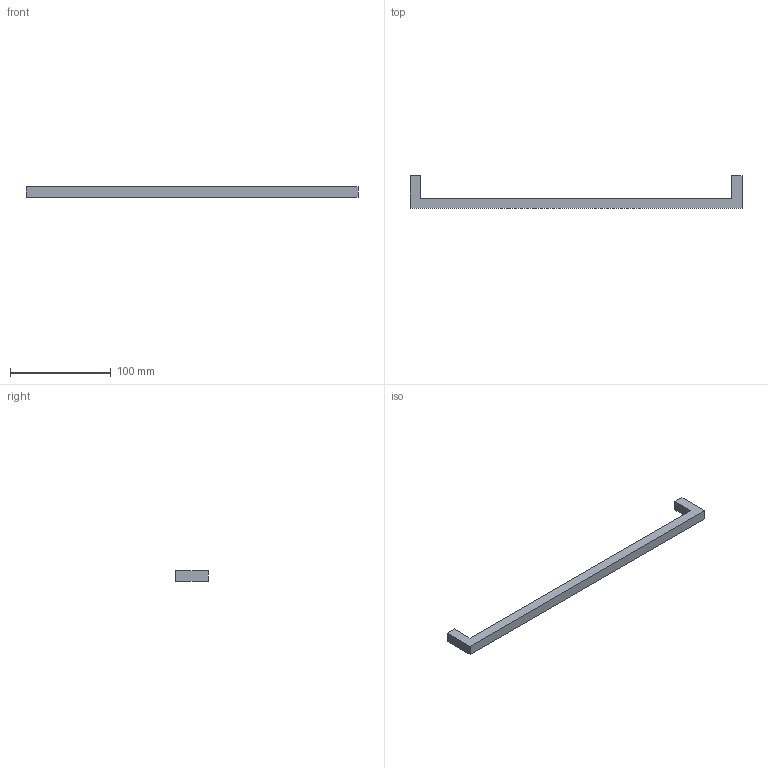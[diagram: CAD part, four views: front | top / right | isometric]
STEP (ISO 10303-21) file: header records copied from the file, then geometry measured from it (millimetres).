
FILE_DESCRIPTION( ( 'STEP AP214' ), '1' );
FILE_NAME( 'C:/Users/kulkarni/Desktop/Apurva/2015/Prodecor_2016/Cadfiles/same as files/Anzio/9204177.stp', ' ', ( ' ' ), ( ' ' ), 'PSStep 15.0.47', 'PARTsolutions', ' ' );
FILE_SCHEMA( ( 'AUTOMOTIVE_DESIGN { 1 0 10303 214 1 1 1 1 }' ) );
Length unit declared in the file: millimetre
Products named in the file (1): _9204177
Bounding box: 330 x 32 x 10 mm (x, y, z)
Volume: 37148.7 mm3; surface area: 15411.3 mm2
Topology: 1 solids, 1 shells, 14 faces, 30 edges, 20 vertices
Faces by surface type: plane 12, cylinder 2
Full cylindrical faces by diameter (mm): 4 x2
Entity records: 496 total; most frequent: CARTESIAN_POINT 63, DIRECTION 62, ORIENTED_EDGE 56, EDGE_CURVE 28, LINE 24, VECTOR 24, VERTEX_POINT 20, AXIS2_PLACEMENT_3D 19
